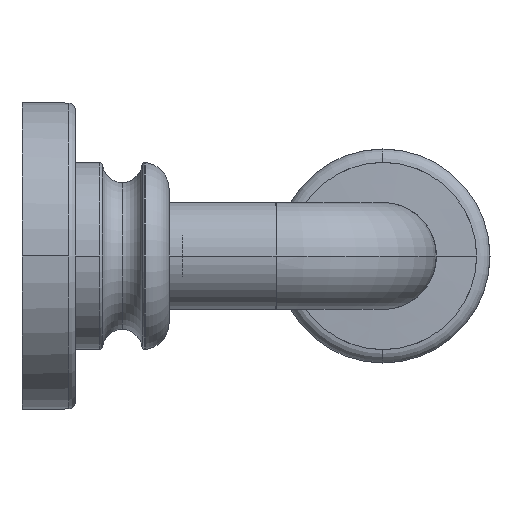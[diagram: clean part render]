
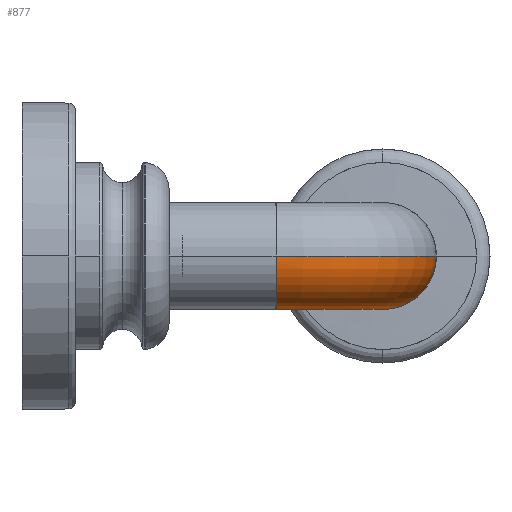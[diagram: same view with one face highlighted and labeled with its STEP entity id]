
A CAD part, left-side view. The second image highlights one B-rep face of the part: STEP entity #877.
In plain terms, the highlighted toroidal (fillet/blend) face has major radius 8 mm and minor radius 4 mm.
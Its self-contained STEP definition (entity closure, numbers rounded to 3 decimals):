
#711 = EDGE_CURVE( '', #871, #899, #2065, .T. );
#847 = EDGE_CURVE( '', #899, #1681, #2210, .T. );
#863 = EDGE_CURVE( '', #1413, #1845, #2229, .T. );
#871 = VERTEX_POINT( '', #2237 );
#877 = ADVANCED_FACE( '', ( #2243 ), #2244, .T. );
#899 = VERTEX_POINT( '', #2268 );
#1101 = VERTEX_POINT( '', #2498 );
#1157 = EDGE_CURVE( '', #1101, #1681, #2557, .T. );
#1173 = EDGE_CURVE( '', #1991, #1101, #2575, .T. );
#1413 = VERTEX_POINT( '', #2841 );
#1681 = VERTEX_POINT( '', #3140 );
#1845 = VERTEX_POINT( '', #3321 );
#1909 = EDGE_CURVE( '', #1991, #1845, #3390, .T. );
#1975 = EDGE_CURVE( '', #1413, #871, #3462, .T. );
#1991 = VERTEX_POINT( '', #3480 );
#2065 = B_SPLINE_CURVE_WITH_KNOTS( '', 3, ( #3555, #3556, #3557, #3558, #3559, #3560, #3561, #3562, #3563, #3564, #3565, #3566, #3567, #3568, #3569, #3570, #3571, #3572, #3573, #3574, #3575, #3576, #3577, #3578, #3579, #3580, #3581, #3582, #3583, #3584, #3585, #3586, #3587, #3588, #3589 ), .UNSPECIFIED., .F., .F., ( 4, 2, 2, 2, 2, 2, 2, 2, 3, 2, 2, 2, 2, 2, 2, 2, 4 ), ( 17.772, 18.512, 19.253, 19.993, 20.734, 21.474, 22.214, 22.955, 23.695, 24.436, 25.176, 25.917, 26.657, 27.398, 28.138, 28.879, 29.619 ), .UNSPECIFIED. );
#2210 = CIRCLE( '', #3778, 12. );
#2229 = CIRCLE( '', #3801, 4. );
#2237 = CARTESIAN_POINT( '', ( 0., -19., -4. ) );
#2243 = FACE_OUTER_BOUND( '', #3821, .T. );
#2244 = TOROIDAL_SURFACE( '', #3822, 8., 4. );
#2268 = CARTESIAN_POINT( '', ( -4., -19., 0. ) );
#2498 = CARTESIAN_POINT( '', ( 8., -26.99, -4. ) );
#2557 = CIRCLE( '', #4204, 4. );
#2575 = CIRCLE( '', #4226, 4. );
#2841 = CARTESIAN_POINT( '', ( 0., -18.98, -4. ) );
#3140 = CARTESIAN_POINT( '', ( 8., -30.98, 0. ) );
#3321 = CARTESIAN_POINT( '', ( 4., -18.98, 0. ) );
#3390 = CIRCLE( '', #5309, 4. );
#3462 = B_SPLINE_CURVE_WITH_KNOTS( '', 3, ( #5403, #5404, #5405, #5406, #5407, #5408 ), .UNSPECIFIED., .F., .F., ( 4, 2, 4 ), ( -0.008, 0., 0.012 ), .UNSPECIFIED. );
#3480 = CARTESIAN_POINT( '', ( 8., -22.98, 0. ) );
#3555 = CARTESIAN_POINT( '', ( 0., -19., -4. ) );
#3556 = CARTESIAN_POINT( '', ( -0.247, -19., -4. ) );
#3557 = CARTESIAN_POINT( '', ( -0.516, -19., -3.976 ) );
#3558 = CARTESIAN_POINT( '', ( -1.044, -19., -3.871 ) );
#3559 = CARTESIAN_POINT( '', ( -1.303, -19., -3.79 ) );
#3560 = CARTESIAN_POINT( '', ( -1.759, -19., -3.601 ) );
#3561 = CARTESIAN_POINT( '', ( -1.998, -19., -3.475 ) );
#3562 = CARTESIAN_POINT( '', ( -2.446, -19., -3.176 ) );
#3563 = CARTESIAN_POINT( '', ( -2.654, -19., -3.003 ) );
#3564 = CARTESIAN_POINT( '', ( -3.003, -19., -2.654 ) );
#3565 = CARTESIAN_POINT( '', ( -3.176, -19., -2.446 ) );
#3566 = CARTESIAN_POINT( '', ( -3.475, -19., -1.998 ) );
#3567 = CARTESIAN_POINT( '', ( -3.601, -19., -1.759 ) );
#3568 = CARTESIAN_POINT( '', ( -3.79, -19., -1.303 ) );
#3569 = CARTESIAN_POINT( '', ( -3.871, -19., -1.044 ) );
#3570 = CARTESIAN_POINT( '', ( -3.976, -19., -0.516 ) );
#3571 = CARTESIAN_POINT( '', ( -4., -19., -0.247 ) );
#3572 = CARTESIAN_POINT( '', ( -4., -19., 0. ) );
#3573 = CARTESIAN_POINT( '', ( -4., -19., 0.247 ) );
#3574 = CARTESIAN_POINT( '', ( -3.976, -19., 0.516 ) );
#3575 = CARTESIAN_POINT( '', ( -3.871, -19., 1.044 ) );
#3576 = CARTESIAN_POINT( '', ( -3.79, -19., 1.303 ) );
#3577 = CARTESIAN_POINT( '', ( -3.601, -19., 1.759 ) );
#3578 = CARTESIAN_POINT( '', ( -3.475, -19., 1.998 ) );
#3579 = CARTESIAN_POINT( '', ( -3.176, -19., 2.446 ) );
#3580 = CARTESIAN_POINT( '', ( -3.003, -19., 2.654 ) );
#3581 = CARTESIAN_POINT( '', ( -2.654, -19., 3.003 ) );
#3582 = CARTESIAN_POINT( '', ( -2.446, -19., 3.176 ) );
#3583 = CARTESIAN_POINT( '', ( -1.998, -19., 3.475 ) );
#3584 = CARTESIAN_POINT( '', ( -1.759, -19., 3.601 ) );
#3585 = CARTESIAN_POINT( '', ( -1.303, -19., 3.79 ) );
#3586 = CARTESIAN_POINT( '', ( -1.044, -19., 3.871 ) );
#3587 = CARTESIAN_POINT( '', ( -0.516, -19., 3.976 ) );
#3588 = CARTESIAN_POINT( '', ( -0.247, -19., 4. ) );
#3589 = CARTESIAN_POINT( '', ( 0., -19., 4. ) );
#3778 = AXIS2_PLACEMENT_3D( '', #5688, #5689, #5690 );
#3801 = AXIS2_PLACEMENT_3D( '', #5726, #5727, #5728 );
#3821 = EDGE_LOOP( '', ( #5743, #5744, #5745, #5746, #5747, #5748, #5749 ) );
#3822 = AXIS2_PLACEMENT_3D( '', #5750, #5751, #5752 );
#4204 = AXIS2_PLACEMENT_3D( '', #6189, #6190, #6191 );
#4226 = AXIS2_PLACEMENT_3D( '', #6219, #6220, #6221 );
#5309 = AXIS2_PLACEMENT_3D( '', #7370, #7371, #7372 );
#5403 = CARTESIAN_POINT( '', ( 0., -18.98, -4. ) );
#5404 = CARTESIAN_POINT( '', ( 0., -18.983, -4. ) );
#5405 = CARTESIAN_POINT( '', ( 0., -18.985, -4. ) );
#5406 = CARTESIAN_POINT( '', ( 0., -18.992, -4. ) );
#5407 = CARTESIAN_POINT( '', ( 0., -18.996, -4. ) );
#5408 = CARTESIAN_POINT( '', ( 0., -19., -4. ) );
#5688 = CARTESIAN_POINT( '', ( 8., -18.98, 0. ) );
#5689 = DIRECTION( '', ( 0., 0., 1. ) );
#5690 = DIRECTION( '', ( 1., 0., 0. ) );
#5726 = CARTESIAN_POINT( '', ( 0., -18.98, 0. ) );
#5727 = DIRECTION( '', ( 0., -1., 0. ) );
#5728 = DIRECTION( '', ( -1., 0., 0. ) );
#5743 = ORIENTED_EDGE( '', *, *, #847, .F. );
#5744 = ORIENTED_EDGE( '', *, *, #711, .F. );
#5745 = ORIENTED_EDGE( '', *, *, #1975, .F. );
#5746 = ORIENTED_EDGE( '', *, *, #863, .T. );
#5747 = ORIENTED_EDGE( '', *, *, #1909, .F. );
#5748 = ORIENTED_EDGE( '', *, *, #1173, .T. );
#5749 = ORIENTED_EDGE( '', *, *, #1157, .T. );
#5750 = CARTESIAN_POINT( '', ( 8., -18.98, 0. ) );
#5751 = DIRECTION( '', ( 0., 0., 1. ) );
#5752 = DIRECTION( '', ( 1., 0., 0. ) );
#6189 = CARTESIAN_POINT( '', ( 8., -26.98, 0. ) );
#6190 = DIRECTION( '', ( -1., 0., 0. ) );
#6191 = DIRECTION( '', ( 0., 1., 0. ) );
#6219 = CARTESIAN_POINT( '', ( 8., -26.98, 0. ) );
#6220 = DIRECTION( '', ( -1., 0., 0. ) );
#6221 = DIRECTION( '', ( 0., 1., 0. ) );
#7370 = CARTESIAN_POINT( '', ( 8., -18.98, 0. ) );
#7371 = DIRECTION( '', ( 0., 0., -1. ) );
#7372 = DIRECTION( '', ( 1., 0., 0. ) );
